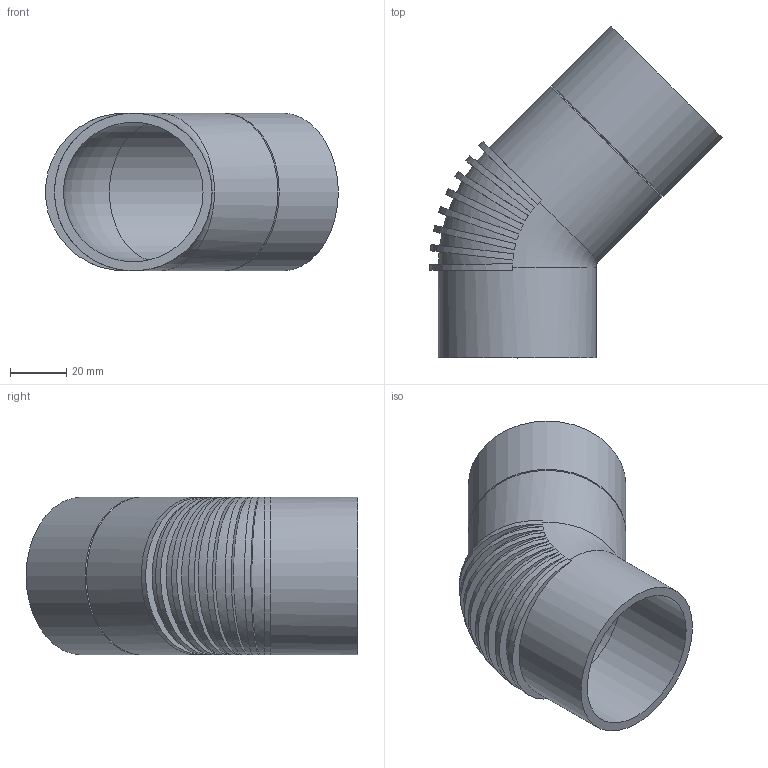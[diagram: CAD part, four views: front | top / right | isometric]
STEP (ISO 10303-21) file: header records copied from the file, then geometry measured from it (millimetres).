
FILE_DESCRIPTION(/* description */ (''),/* implementation_level */ '2;1');
FILE_NAME(/* name */ 'Z:\Geberit\Export\NewStep\Bogen_Ipart\stp\305450.stp',/* time_stamp */ '2014-04-03T16:42:35+02:00',/* author */ ('Marco'),/* organization */ (''),/* preprocessor_version */ 'ST-DEVELOPER v15.2',/* originating_system */ 'Autodesk Inventor 2014',/* authorisation */ '');
FILE_SCHEMA (('AUTOMOTIVE_DESIGN { 1 0 10303 214 3 1 1 }'));
Length unit declared in the file: millimetre
Products named in the file (1): 305450
Bounding box: 103.93 x 117.83 x 56 mm (x, y, z)
Volume: 66173.2 mm3; surface area: 43530.9 mm2
Topology: 1 solids, 1 shells, 35 faces, 96 edges, 63 vertices
Faces by surface type: plane 18, cylinder 13, cone 2, torus 2
Full cylindrical faces by diameter (mm): 49.6 x2, 56 x3
Entity records: 1516 total; most frequent: CARTESIAN_POINT 712, ORIENTED_EDGE 154, DIRECTION 134, EDGE_CURVE 77, AXIS2_PLACEMENT_3D 65, VERTEX_POINT 59, EDGE_LOOP 52, B_SPLINE_CURVE_WITH_KNOTS 44
